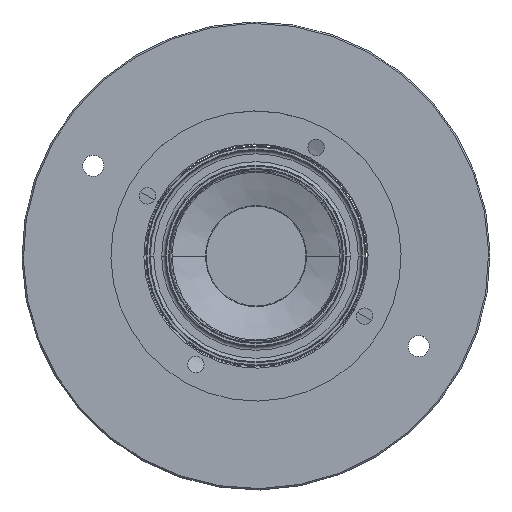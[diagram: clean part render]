
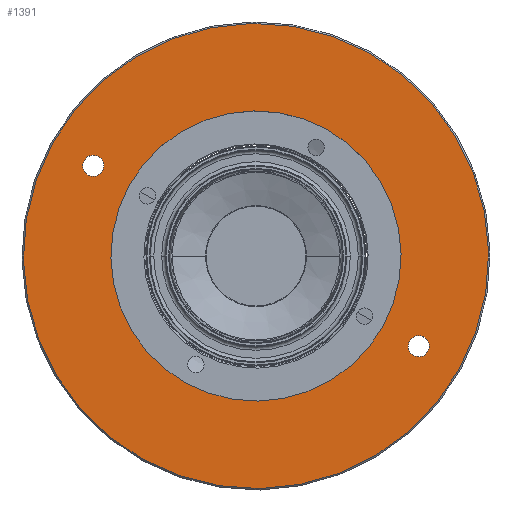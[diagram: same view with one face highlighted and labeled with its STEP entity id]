
A CAD part, top view. The second image highlights one B-rep face of the part: STEP entity #1391.
In plain terms, the highlighted planar face has unit normal (0, 0, 1).
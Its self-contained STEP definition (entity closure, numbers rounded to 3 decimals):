
#515=CARTESIAN_POINT('',(-0.002,-0.001,4.5));
#516=DIRECTION('',(0.,0.,1.));
#517=DIRECTION('',(0.485,0.875,0.));
#518=AXIS2_PLACEMENT_3D('',#515,#516,#517);
#520=CARTESIAN_POINT('',(-0.002,-0.001,4.5));
#521=DIRECTION('',(0.,0.,1.));
#522=DIRECTION('',(-0.485,-0.875,0.));
#523=AXIS2_PLACEMENT_3D('',#520,#521,#522);
#525=CARTESIAN_POINT('',(-0.002,-0.001,4.5));
#526=DIRECTION('',(0.,0.,1.));
#527=DIRECTION('',(0.875,-0.485,0.));
#528=AXIS2_PLACEMENT_3D('',#525,#526,#527);
#530=CARTESIAN_POINT('',(-0.002,-0.001,4.5));
#531=DIRECTION('',(0.,0.,1.));
#532=DIRECTION('',(-0.875,0.485,0.));
#533=AXIS2_PLACEMENT_3D('',#530,#531,#532);
#535=CARTESIAN_POINT('',(-34.768,19.271,4.5));
#536=DIRECTION('',(0.,0.,1.));
#537=DIRECTION('',(-0.875,0.485,0.));
#538=AXIS2_PLACEMENT_3D('',#535,#536,#537);
#540=CARTESIAN_POINT('',(-34.768,19.271,4.5));
#541=DIRECTION('',(0.,0.,1.));
#542=DIRECTION('',(0.875,-0.485,0.));
#543=AXIS2_PLACEMENT_3D('',#540,#541,#542);
#545=CARTESIAN_POINT('',(34.764,-19.272,4.5));
#546=DIRECTION('',(0.,0.,1.));
#547=DIRECTION('',(-0.875,0.485,0.));
#548=AXIS2_PLACEMENT_3D('',#545,#546,#547);
#550=CARTESIAN_POINT('',(34.764,-19.272,4.5));
#551=DIRECTION('',(0.,0.,1.));
#552=DIRECTION('',(0.875,-0.485,0.));
#553=AXIS2_PLACEMENT_3D('',#550,#551,#552);
#965=CARTESIAN_POINT('',(24.093,43.468,4.5));
#966=CARTESIAN_POINT('',(-24.097,-43.469,4.5));
#967=VERTEX_POINT('',#965);
#968=VERTEX_POINT('',#966);
#977=CARTESIAN_POINT('',(27.112,-15.03,4.5));
#978=CARTESIAN_POINT('',(-27.115,15.028,4.5));
#979=VERTEX_POINT('',#977);
#980=VERTEX_POINT('',#978);
#993=CARTESIAN_POINT('',(-32.8,18.18,4.5));
#994=CARTESIAN_POINT('',(-36.736,20.361,4.5));
#995=VERTEX_POINT('',#993);
#996=VERTEX_POINT('',#994);
#1009=CARTESIAN_POINT('',(32.797,-18.181,4.5));
#1010=CARTESIAN_POINT('',(36.732,-20.363,4.5));
#1011=VERTEX_POINT('',#1009);
#1012=VERTEX_POINT('',#1010);
#1363=CARTESIAN_POINT('',(-0.002,-0.001,4.5));
#1364=DIRECTION('',(0.,0.,-1.));
#1365=DIRECTION('',(-0.485,-0.875,0.));
#1366=AXIS2_PLACEMENT_3D('',#1363,#1364,#1365);
#1367=PLANE('',#1366);
#1369=ORIENTED_EDGE('',*,*,#1368,.F.);
#1370=ORIENTED_EDGE('',*,*,#1353,.F.);
#1371=EDGE_LOOP('',(#1369,#1370));
#1372=FACE_OUTER_BOUND('',#1371,.F.);
#1374=ORIENTED_EDGE('',*,*,#1373,.T.);
#1376=ORIENTED_EDGE('',*,*,#1375,.T.);
#1377=EDGE_LOOP('',(#1374,#1376));
#1378=FACE_BOUND('',#1377,.F.);
#1380=ORIENTED_EDGE('',*,*,#1379,.T.);
#1382=ORIENTED_EDGE('',*,*,#1381,.T.);
#1383=EDGE_LOOP('',(#1380,#1382));
#1384=FACE_BOUND('',#1383,.F.);
#1386=ORIENTED_EDGE('',*,*,#1385,.T.);
#1388=ORIENTED_EDGE('',*,*,#1387,.T.);
#1389=EDGE_LOOP('',(#1386,#1388));
#1390=FACE_BOUND('',#1389,.F.);
#1391=ADVANCED_FACE('',(#1372,#1378,#1384,#1390),#1367,.F.);
#519=CIRCLE('',#518,49.7);
#524=CIRCLE('',#523,49.7);
#529=CIRCLE('',#528,31.);
#534=CIRCLE('',#533,31.);
#539=CIRCLE('',#538,2.25);
#544=CIRCLE('',#543,2.25);
#549=CIRCLE('',#548,2.25);
#554=CIRCLE('',#553,2.25);
#1353=EDGE_CURVE('',#968,#967,#524,.T.);
#1368=EDGE_CURVE('',#967,#968,#519,.T.);
#1373=EDGE_CURVE('',#979,#980,#529,.T.);
#1375=EDGE_CURVE('',#980,#979,#534,.T.);
#1379=EDGE_CURVE('',#996,#995,#539,.T.);
#1381=EDGE_CURVE('',#995,#996,#544,.T.);
#1385=EDGE_CURVE('',#1011,#1012,#549,.T.);
#1387=EDGE_CURVE('',#1012,#1011,#554,.T.);
